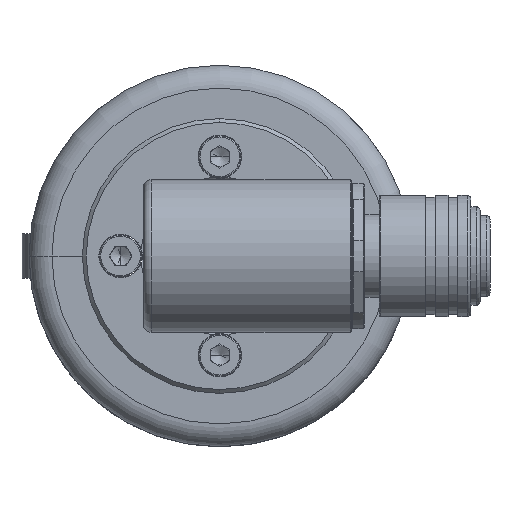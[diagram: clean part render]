
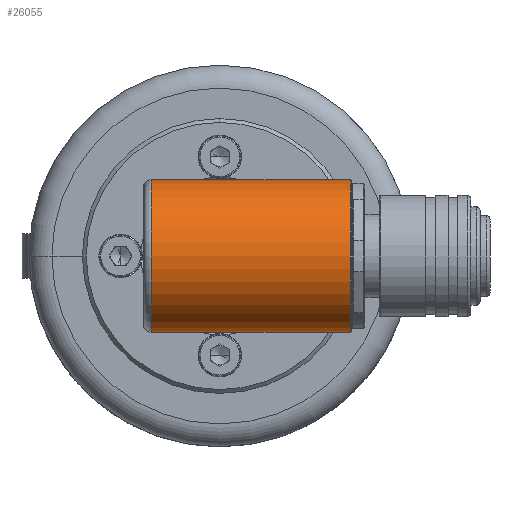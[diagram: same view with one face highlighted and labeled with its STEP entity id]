
A CAD part, left-side view. The second image highlights one B-rep face of the part: STEP entity #26055.
In plain terms, the highlighted cylindrical face has radius 10 mm (diameter 20 mm), a partial arc.
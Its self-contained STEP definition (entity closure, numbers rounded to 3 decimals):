
#1860 = ORIENTED_EDGE ( 'NONE', *, *, #62779, .T. ) ;
#2453 = VECTOR ( 'NONE', #35918, 1000. ) ;
#3811 = AXIS2_PLACEMENT_3D ( 'NONE', #16071, #17233, #66923 ) ;
#4314 = LINE ( 'NONE', #65713, #71857 ) ;
#4828 = CARTESIAN_POINT ( 'NONE',  ( -94.95, -17.1, 0. ) ) ;
#4986 = DIRECTION ( 'NONE',  ( 0., 0., 1. ) ) ;
#7194 = VERTEX_POINT ( 'NONE', #76888 ) ;
#8678 = VECTOR ( 'NONE', #17458, 1000. ) ;
#10405 = DIRECTION ( 'NONE',  ( 0., 1., 0. ) ) ;
#11307 = VERTEX_POINT ( 'NONE', #67019 ) ;
#15761 = DIRECTION ( 'NONE',  ( 0., 0., -1. ) ) ;
#16071 = CARTESIAN_POINT ( 'NONE',  ( -94.95, 9., 0. ) ) ;
#16737 = ORIENTED_EDGE ( 'NONE', *, *, #67358, .F. ) ;
#17233 = DIRECTION ( 'NONE',  ( 0., -1., 0. ) ) ;
#17458 = DIRECTION ( 'NONE',  ( 0., 1., 0. ) ) ;
#23515 = CARTESIAN_POINT ( 'NONE',  ( -94.95, -18.9, 0. ) ) ;
#25764 = CIRCLE ( 'NONE', #3811, 10. ) ;
#26055 = ADVANCED_FACE ( 'NONE', ( #77356 ), #65194, .T. ) ;
#26253 = VERTEX_POINT ( 'NONE', #30380 ) ;
#27666 = LINE ( 'NONE', #40199, #8678 ) ;
#30380 = CARTESIAN_POINT ( 'NONE',  ( -94.95, 0., 10. ) ) ;
#32407 = EDGE_CURVE ( 'NONE', #39015, #7194, #25764, .T. ) ;
#33556 = CARTESIAN_POINT ( 'NONE',  ( -94.95, -18.9, -10. ) ) ;
#34722 = DIRECTION ( 'NONE',  ( 0., 1., 0. ) ) ;
#35918 = DIRECTION ( 'NONE',  ( 0., 1., 0. ) ) ;
#38102 = LINE ( 'NONE', #33556, #38772 ) ;
#38772 = VECTOR ( 'NONE', #62773, 1000. ) ;
#39015 = VERTEX_POINT ( 'NONE', #43407 ) ;
#40199 = CARTESIAN_POINT ( 'NONE',  ( -94.95, -18.9, 10. ) ) ;
#40490 = ORIENTED_EDGE ( 'NONE', *, *, #55407, .T. ) ;
#42614 = EDGE_CURVE ( 'NONE', #43155, #11307, #57289, .T. ) ;
#43155 = VERTEX_POINT ( 'NONE', #57840 ) ;
#43239 = ORIENTED_EDGE ( 'NONE', *, *, #32407, .T. ) ;
#43407 = CARTESIAN_POINT ( 'NONE',  ( -94.95, 9., 10. ) ) ;
#47857 = ORIENTED_EDGE ( 'NONE', *, *, #69498, .F. ) ;
#51601 = EDGE_LOOP ( 'NONE', ( #47857, #59124, #40490, #1860, #43239, #16737 ) ) ;
#55407 = EDGE_CURVE ( 'NONE', #11307, #26253, #27666, .T. ) ;
#57289 = CIRCLE ( 'NONE', #65091, 10. ) ;
#57840 = CARTESIAN_POINT ( 'NONE',  ( -94.95, -17.1, -10. ) ) ;
#58979 = CARTESIAN_POINT ( 'NONE',  ( -94.95, -18.9, -10. ) ) ;
#59124 = ORIENTED_EDGE ( 'NONE', *, *, #42614, .T. ) ;
#60079 = AXIS2_PLACEMENT_3D ( 'NONE', #23515, #72475, #4986 ) ;
#62773 = DIRECTION ( 'NONE',  ( 0., 1., 0. ) ) ;
#62779 = EDGE_CURVE ( 'NONE', #26253, #39015, #4314, .T. ) ;
#65091 = AXIS2_PLACEMENT_3D ( 'NONE', #4828, #34722, #15761 ) ;
#65194 = CYLINDRICAL_SURFACE ( 'NONE', #60079, 10. ) ;
#65713 = CARTESIAN_POINT ( 'NONE',  ( -94.95, -18.9, 10. ) ) ;
#66660 = LINE ( 'NONE', #58979, #2453 ) ;
#66923 = DIRECTION ( 'NONE',  ( 0., 0., 1. ) ) ;
#67019 = CARTESIAN_POINT ( 'NONE',  ( -94.95, -17.1, 10. ) ) ;
#67358 = EDGE_CURVE ( 'NONE', #73903, #7194, #66660, .T. ) ;
#69498 = EDGE_CURVE ( 'NONE', #43155, #73903, #38102, .T. ) ;
#71857 = VECTOR ( 'NONE', #10405, 1000. ) ;
#72475 = DIRECTION ( 'NONE',  ( 0., 1., 0. ) ) ;
#73903 = VERTEX_POINT ( 'NONE', #76507 ) ;
#76507 = CARTESIAN_POINT ( 'NONE',  ( -94.95, 0., -10. ) ) ;
#76888 = CARTESIAN_POINT ( 'NONE',  ( -94.95, 9., -10. ) ) ;
#77356 = FACE_OUTER_BOUND ( 'NONE', #51601, .T. ) ;
